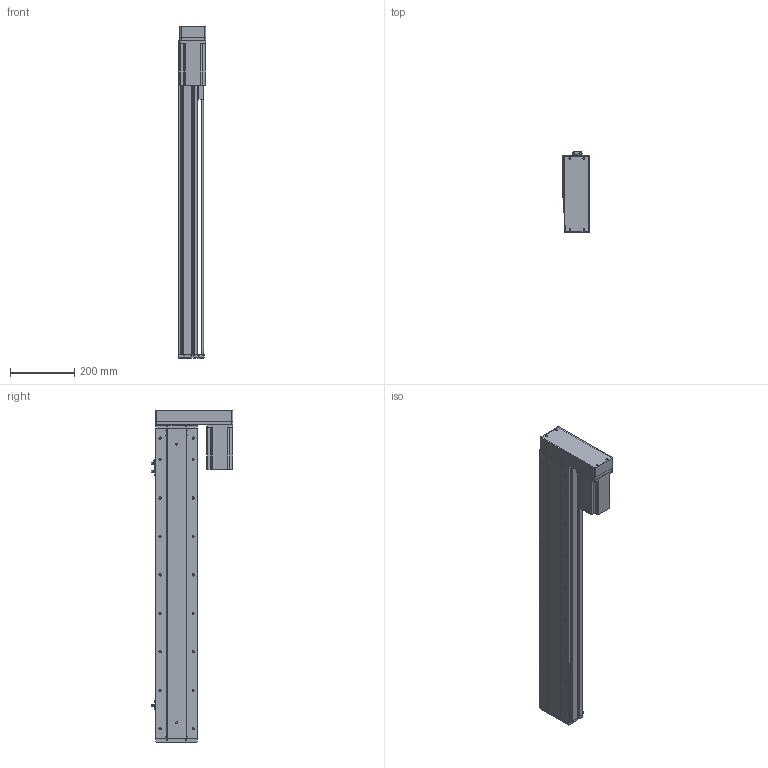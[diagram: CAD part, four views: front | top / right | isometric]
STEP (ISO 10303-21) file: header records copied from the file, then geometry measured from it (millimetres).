
FILE_DESCRIPTION (( 'STEP AP214' ), '1' );
FILE_NAME ('KSD130-P2010-S750-MR-CM.STEP', '2019-09-17T07:53:20', ( '微软用户' ), ( '微软中国' ), 'SwSTEP 2.0', 'SolidWorks 2014', '' );
FILE_SCHEMA (( 'AUTOMOTIVE_DESIGN' ));
Length unit declared in the file: millimetre
Products named in the file (11): 130遵傷裔圉猾敕; 130宽底板半封闭丝杠-750行程; KSD130-P2010-S750-MR-CM; 130宽模组保护罩左右折; 台达ECMA－C20807AS伺服电机; 130宽模组马达安装板连板左右折丝杆; U倰嫖萇EEㄜSX672; 覜茼え100遵圉猾敕; 130宽盖板半封闭丝杠-750行程; 130宽滚珠丝杆安装板半封闭-20丝杠; 130宽马达安装板半封闭
Assembly tree (12 placements, depth 2):
  KSD130-P2010-S750-MR-CM
    130宽底板半封闭丝杠-750行程
    130遵傷裔圉猾敕
    130宽马达安装板半封闭
    130宽滚珠丝杆安装板半封闭-20丝杠
    130宽盖板半封闭丝杠-750行程
    覜茼え100遵圉猾敕
    U倰嫖萇EEㄜSX672  x3
    130宽模组马达安装板连板左右折丝杆
    台达ECMA－C20807AS伺服电机
    130宽模组保护罩左右折
Bounding box: 85.5 x 253.73 x 1035.5 mm (x, y, z)
Volume: 4103003.1 mm3; surface area: 1121373.9 mm2
Topology: 13 solids, 13 shells, 1360 faces, 3849 edges, 2455 vertices
Faces by surface type: cylinder 651, plane 562, cone 147
Entity records: 44782 total; most frequent: CARTESIAN_POINT 8510, DIRECTION 6567, ORIENTED_EDGE 6370, EDGE_CURVE 3185, AXIS2_PLACEMENT_3D 2380, VERTEX_POINT 2079, VECTOR 1807, LINE 1807
